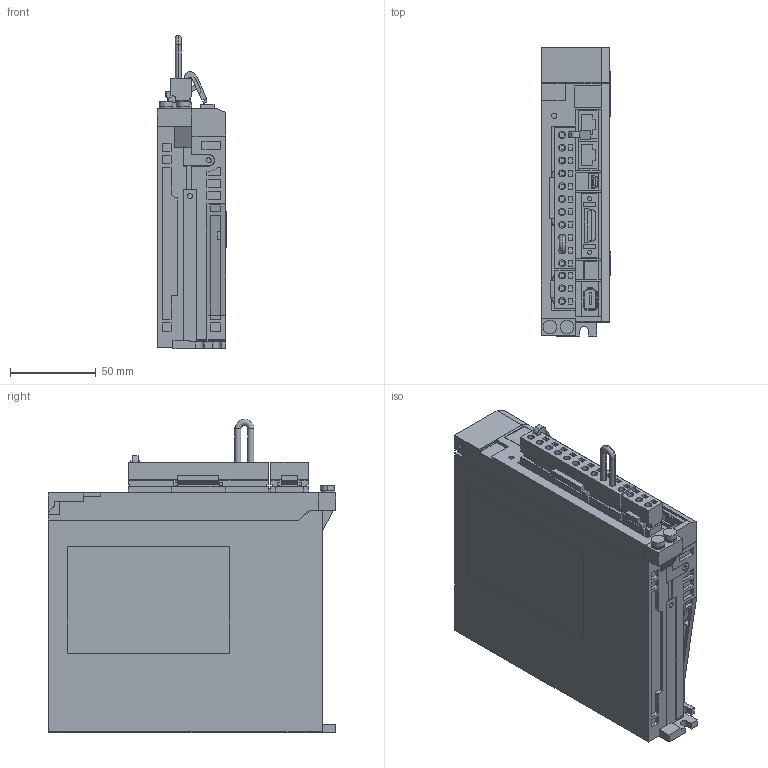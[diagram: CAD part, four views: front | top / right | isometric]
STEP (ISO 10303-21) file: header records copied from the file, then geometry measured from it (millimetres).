
FILE_DESCRIPTION (( 'STEP AP203' ), '1' );
FILE_NAME ('sgdxs_r90a__a.STEP', '2021-02-19T01:24:16', ( 'YMANOUCHI' ), ( 'TAKUMI-Engniaring' ), 'SwSTEP 2.0', 'SolidWorks 2005204', '' );
FILE_SCHEMA (( 'CONFIG_CONTROL_DESIGN' ));
Products named in the file (11): sgdxs_r90a__a_cover; sgdxs_r90a__a_cover2; sgdxs_r90a__a_base; sgdxs_r90a__a_connector1; sgdxs_r90a__a; sgdxs_r90a__a_connector; sgdxs_r90a__a_connector2; sgdxs_r90a__a_pin; sgdxs_r90a__a_cable; sgdxs_r90a__a_connector3; sgdxs_r90a__a_cover3
Assembly tree (10 placements, depth 3):
  sgdxs_r90a__a
    sgdxs_r90a__a_cover3
    sgdxs_r90a__a_connector
      sgdxs_r90a__a_connector2
      sgdxs_r90a__a_pin
      sgdxs_r90a__a_cable
    sgdxs_r90a__a_connector1
    sgdxs_r90a__a_cover
    sgdxs_r90a__a_base
    sgdxs_r90a__a_cover2
    sgdxs_r90a__a_connector3
Bounding box: 40.5 x 168 x 183 mm (x, y, z)
Volume: 827624.6 mm3; surface area: 130197.5 mm2
Topology: 9 solids, 9 shells, 1581 faces, 4211 edges, 2779 vertices
Faces by surface type: plane 1446, cylinder 133, torus 2
Entity records: 49484 total; most frequent: CARTESIAN_POINT 8585, ORIENTED_EDGE 8422, DIRECTION 7675, EDGE_CURVE 4211, VECTOR 3937, LINE 3937, VERTEX_POINT 2779, AXIS2_PLACEMENT_3D 1869
